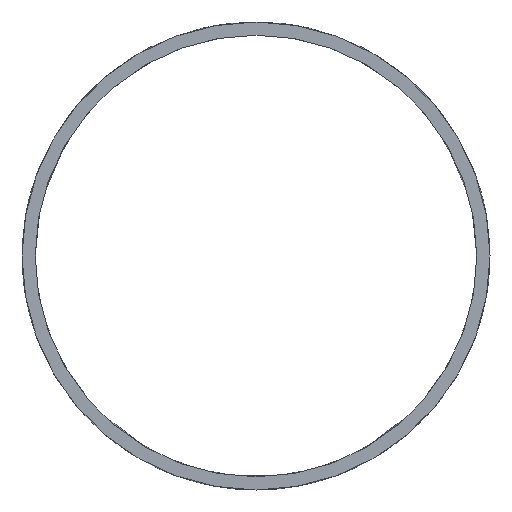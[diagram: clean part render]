
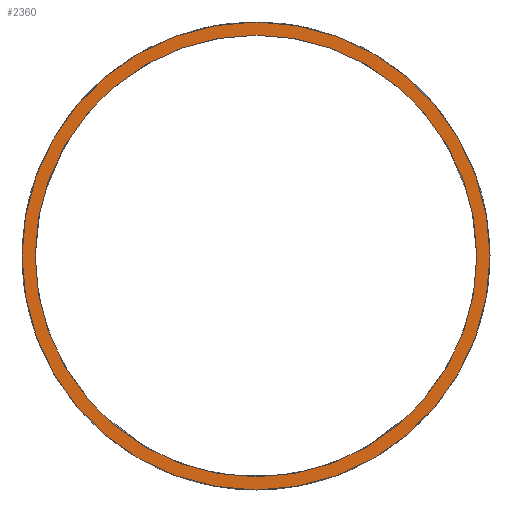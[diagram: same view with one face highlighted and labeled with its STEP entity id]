
A CAD part, left-side view. The second image highlights one B-rep face of the part: STEP entity #2360.
In plain terms, the highlighted planar face has unit normal (-1, 0, 0).
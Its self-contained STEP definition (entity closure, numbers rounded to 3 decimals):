
#22 = VERTEX_POINT('',#23);
#23 = CARTESIAN_POINT('',(28.,0.,21.25));
#32 = CYLINDRICAL_SURFACE('',#33,21.25);
#33 = AXIS2_PLACEMENT_3D('',#34,#35,#36);
#34 = CARTESIAN_POINT('',(28.,0.,0.));
#35 = DIRECTION('',(1.,0.,0.));
#36 = DIRECTION('',(-0.,0.,1.));
#514 = EDGE_CURVE('',#22,#22,#515,.T.);
#515 = SURFACE_CURVE('',#516,(#521,#528),.PCURVE_S1.);
#516 = CIRCLE('',#517,21.25);
#517 = AXIS2_PLACEMENT_3D('',#518,#519,#520);
#518 = CARTESIAN_POINT('',(28.,0.,0.));
#519 = DIRECTION('',(1.,0.,0.));
#520 = DIRECTION('',(-0.,0.,1.));
#521 = PCURVE('',#32,#522);
#522 = DEFINITIONAL_REPRESENTATION('',(#523),#527);
#523 = LINE('',#524,#525);
#524 = CARTESIAN_POINT('',(0.,0.));
#525 = VECTOR('',#526,1.);
#526 = DIRECTION('',(1.,0.));
#527 = ( GEOMETRIC_REPRESENTATION_CONTEXT(2) 
PARAMETRIC_REPRESENTATION_CONTEXT() REPRESENTATION_CONTEXT('2D SPACE',''
  ) );
#528 = PCURVE('',#529,#534);
#529 = PLANE('',#530);
#530 = AXIS2_PLACEMENT_3D('',#531,#532,#533);
#531 = CARTESIAN_POINT('',(28.,0.,0.));
#532 = DIRECTION('',(1.,0.,0.));
#533 = DIRECTION('',(-0.,0.,1.));
#534 = DEFINITIONAL_REPRESENTATION('',(#535),#539);
#535 = CIRCLE('',#536,21.25);
#536 = AXIS2_PLACEMENT_2D('',#537,#538);
#537 = CARTESIAN_POINT('',(0.,0.));
#538 = DIRECTION('',(1.,0.));
#539 = ( GEOMETRIC_REPRESENTATION_CONTEXT(2) 
PARAMETRIC_REPRESENTATION_CONTEXT() REPRESENTATION_CONTEXT('2D SPACE',''
  ) );
#581 = CYLINDRICAL_SURFACE('',#582,20.05);
#582 = AXIS2_PLACEMENT_3D('',#583,#584,#585);
#583 = CARTESIAN_POINT('',(27.,0.,0.));
#584 = DIRECTION('',(1.,0.,0.));
#585 = DIRECTION('',(-0.,0.,1.));
#668 = VERTEX_POINT('',#669);
#669 = CARTESIAN_POINT('',(28.,0.,20.05));
#1068 = EDGE_CURVE('',#668,#668,#1069,.T.);
#1069 = SURFACE_CURVE('',#1070,(#1075,#1082),.PCURVE_S1.);
#1070 = CIRCLE('',#1071,20.05);
#1071 = AXIS2_PLACEMENT_3D('',#1072,#1073,#1074);
#1072 = CARTESIAN_POINT('',(28.,0.,0.));
#1073 = DIRECTION('',(1.,0.,0.));
#1074 = DIRECTION('',(-0.,0.,1.));
#1075 = PCURVE('',#581,#1076);
#1076 = DEFINITIONAL_REPRESENTATION('',(#1077),#1081);
#1077 = LINE('',#1078,#1079);
#1078 = CARTESIAN_POINT('',(0.,1.));
#1079 = VECTOR('',#1080,1.);
#1080 = DIRECTION('',(1.,0.));
#1081 = ( GEOMETRIC_REPRESENTATION_CONTEXT(2) 
PARAMETRIC_REPRESENTATION_CONTEXT() REPRESENTATION_CONTEXT('2D SPACE',''
  ) );
#1082 = PCURVE('',#529,#1083);
#1083 = DEFINITIONAL_REPRESENTATION('',(#1084),#1088);
#1084 = CIRCLE('',#1085,20.05);
#1085 = AXIS2_PLACEMENT_2D('',#1086,#1087);
#1086 = CARTESIAN_POINT('',(0.,0.));
#1087 = DIRECTION('',(1.,0.));
#1088 = ( GEOMETRIC_REPRESENTATION_CONTEXT(2) 
PARAMETRIC_REPRESENTATION_CONTEXT() REPRESENTATION_CONTEXT('2D SPACE',''
  ) );
#2360 = ADVANCED_FACE('',(#2361,#2364),#529,.F.);
#2361 = FACE_BOUND('',#2362,.F.);
#2362 = EDGE_LOOP('',(#2363));
#2363 = ORIENTED_EDGE('',*,*,#514,.T.);
#2364 = FACE_BOUND('',#2365,.F.);
#2365 = EDGE_LOOP('',(#2366));
#2366 = ORIENTED_EDGE('',*,*,#1068,.F.);
